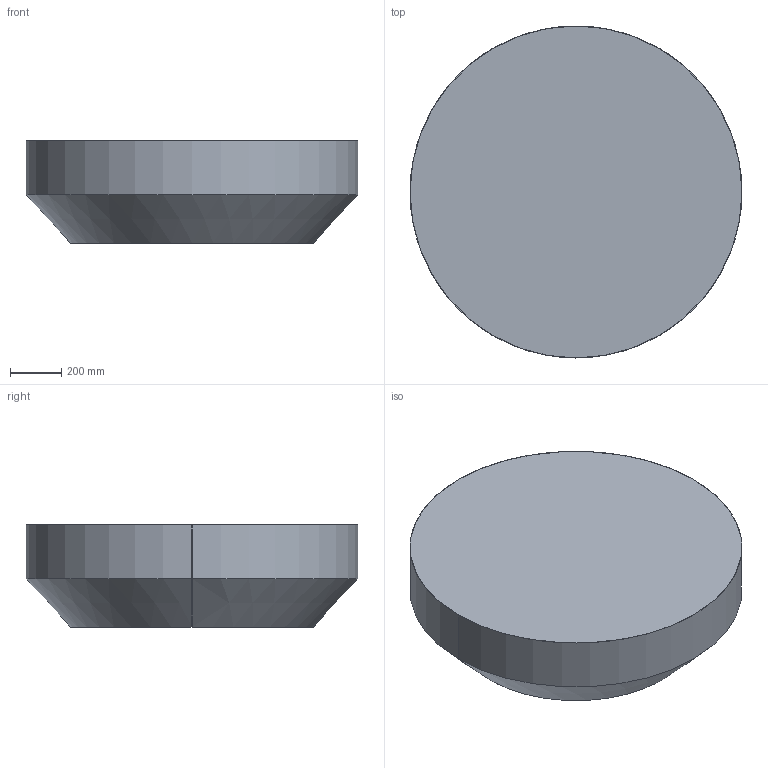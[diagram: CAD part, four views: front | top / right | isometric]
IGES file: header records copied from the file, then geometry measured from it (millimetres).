
Start section: SolidWorks IGES file using analytic representation for surfaces
Global section: file name: C:\Data\SAP_DOC_20200123_IRB390\Lättmodeller_IRB390\Final_4axis\IRB390_15kg_1300_STD_rev0_IGES_J\IRB390_15_1300_STD_4D_WA_00.IGS; native system: SolidWorks 2018; preprocessor: SolidWorks 2018; author: sestdan2; date: 200204.161119; units: millimetre
Bounding box: 1300 x 1300 x 400 mm (x, y, z)
Surface area: 3808238.1 mm2 (no closed solid volume)
Topology: 0 solids, 0 shells, 6 faces, 144 edges, 144 vertices
Faces by surface type: revolution 4, bspline 2
